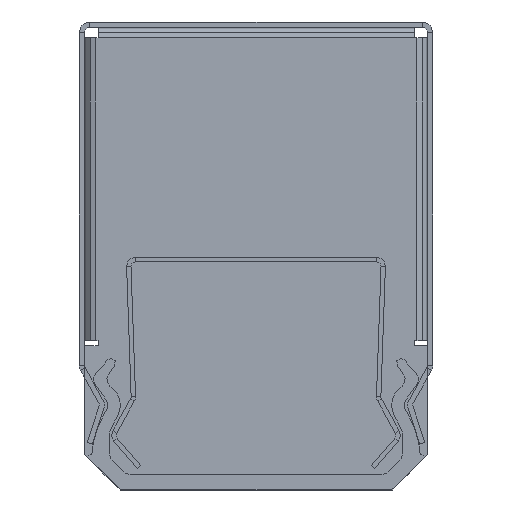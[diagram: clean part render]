
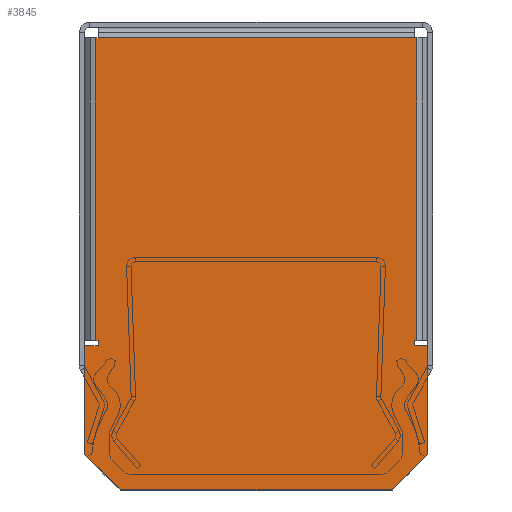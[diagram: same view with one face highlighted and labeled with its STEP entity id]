
A CAD part, left-side view. The second image highlights one B-rep face of the part: STEP entity #3845.
In plain terms, the highlighted planar face has unit normal (-1, 0, 0).
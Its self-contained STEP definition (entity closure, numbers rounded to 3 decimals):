
#141=PLANE('',#4192);
#353=FACE_OUTER_BOUND('',#585,.T.);
#585=EDGE_LOOP('',(#3325,#3326,#3327,#3328,#3329,#3330,#3331,#3332,#3333,
#3334,#3335,#3336,#3337,#3338,#3339,#3340));
#1073=LINE('',#6195,#1503);
#1074=LINE('',#6198,#1504);
#1077=LINE('',#6204,#1507);
#1080=LINE('',#6210,#1510);
#1084=LINE('',#6225,#1514);
#1089=LINE('',#6235,#1519);
#1091=LINE('',#6240,#1521);
#1095=LINE('',#6248,#1525);
#1098=LINE('',#6254,#1528);
#1102=LINE('',#6260,#1532);
#1104=LINE('',#6268,#1534);
#1105=LINE('',#6273,#1535);
#1106=LINE('',#6275,#1536);
#1107=LINE('',#6277,#1537);
#1108=LINE('',#6279,#1538);
#1109=LINE('',#6280,#1539);
#1503=VECTOR('',#5054,10.);
#1504=VECTOR('',#5057,10.);
#1507=VECTOR('',#5062,10.);
#1510=VECTOR('',#5067,10.);
#1514=VECTOR('',#5083,10.);
#1519=VECTOR('',#5094,10.);
#1521=VECTOR('',#5098,10.);
#1525=VECTOR('',#5104,10.);
#1528=VECTOR('',#5109,10.);
#1532=VECTOR('',#5115,10.);
#1534=VECTOR('',#5129,10.);
#1535=VECTOR('',#5136,10.);
#1536=VECTOR('',#5137,10.);
#1537=VECTOR('',#5138,10.);
#1538=VECTOR('',#5139,10.);
#1539=VECTOR('',#5140,10.);
#1873=VERTEX_POINT('',#6187);
#1876=VERTEX_POINT('',#6193);
#1877=VERTEX_POINT('',#6197);
#1879=VERTEX_POINT('',#6203);
#1881=VERTEX_POINT('',#6209);
#1885=VERTEX_POINT('',#6221);
#1886=VERTEX_POINT('',#6223);
#1887=VERTEX_POINT('',#6231);
#1890=VERTEX_POINT('',#6238);
#1892=VERTEX_POINT('',#6245);
#1893=VERTEX_POINT('',#6247);
#1895=VERTEX_POINT('',#6253);
#1897=VERTEX_POINT('',#6272);
#1898=VERTEX_POINT('',#6274);
#1899=VERTEX_POINT('',#6276);
#1900=VERTEX_POINT('',#6278);
#2349=EDGE_CURVE('',#1876,#1873,#1073,.T.);
#2350=EDGE_CURVE('',#1877,#1876,#1074,.T.);
#2353=EDGE_CURVE('',#1879,#1877,#1077,.T.);
#2356=EDGE_CURVE('',#1881,#1879,#1080,.T.);
#2364=EDGE_CURVE('',#1886,#1885,#1084,.T.);
#2369=EDGE_CURVE('',#1885,#1887,#1089,.T.);
#2371=EDGE_CURVE('',#1890,#1881,#1091,.T.);
#2375=EDGE_CURVE('',#1893,#1892,#1095,.T.);
#2378=EDGE_CURVE('',#1895,#1893,#1098,.T.);
#2382=EDGE_CURVE('',#1890,#1895,#1102,.T.);
#2388=EDGE_CURVE('',#1892,#1887,#1104,.T.);
#2389=EDGE_CURVE('',#1897,#1873,#1105,.T.);
#2390=EDGE_CURVE('',#1898,#1886,#1106,.T.);
#2391=EDGE_CURVE('',#1898,#1899,#1107,.T.);
#2392=EDGE_CURVE('',#1899,#1900,#1108,.T.);
#2393=EDGE_CURVE('',#1900,#1897,#1109,.T.);
#3325=ORIENTED_EDGE('',*,*,#2389,.T.);
#3326=ORIENTED_EDGE('',*,*,#2349,.F.);
#3327=ORIENTED_EDGE('',*,*,#2350,.F.);
#3328=ORIENTED_EDGE('',*,*,#2353,.F.);
#3329=ORIENTED_EDGE('',*,*,#2356,.F.);
#3330=ORIENTED_EDGE('',*,*,#2371,.F.);
#3331=ORIENTED_EDGE('',*,*,#2382,.T.);
#3332=ORIENTED_EDGE('',*,*,#2378,.T.);
#3333=ORIENTED_EDGE('',*,*,#2375,.T.);
#3334=ORIENTED_EDGE('',*,*,#2388,.T.);
#3335=ORIENTED_EDGE('',*,*,#2369,.F.);
#3336=ORIENTED_EDGE('',*,*,#2364,.F.);
#3337=ORIENTED_EDGE('',*,*,#2390,.F.);
#3338=ORIENTED_EDGE('',*,*,#2391,.T.);
#3339=ORIENTED_EDGE('',*,*,#2392,.T.);
#3340=ORIENTED_EDGE('',*,*,#2393,.T.);
#3845=ADVANCED_FACE('',(#353),#141,.T.);
#4192=AXIS2_PLACEMENT_3D('',#6271,#5134,#5135);
#5054=DIRECTION('',(0.,0.,1.));
#5057=DIRECTION('',(0.,0.707,0.707));
#5062=DIRECTION('',(0.,1.,0.));
#5067=DIRECTION('',(0.,0.707,-0.707));
#5083=DIRECTION('',(0.,-1.,0.));
#5094=DIRECTION('',(0.,-1.,0.));
#5098=DIRECTION('',(0.,0.,-1.));
#5104=DIRECTION('',(0.,-1.,0.));
#5109=DIRECTION('',(0.,0.,1.));
#5115=DIRECTION('',(0.,1.,0.));
#5129=DIRECTION('',(0.,0.,1.));
#5134=DIRECTION('center_axis',(-1.,0.,0.));
#5135=DIRECTION('ref_axis',(0.,1.,0.));
#5136=DIRECTION('',(0.,1.,0.));
#5137=DIRECTION('',(0.,-1.,0.));
#5138=DIRECTION('',(0.,0.,-1.));
#5139=DIRECTION('',(0.,-1.,0.));
#5140=DIRECTION('',(0.,0.,-1.));
#6187=CARTESIAN_POINT('',(-844.6,19.48,-36.3));
#6193=CARTESIAN_POINT('',(-844.6,19.48,-48.7));
#6195=CARTESIAN_POINT('',(-844.6,19.48,-35.7));
#6197=CARTESIAN_POINT('',(-844.6,15.48,-52.7));
#6198=CARTESIAN_POINT('',(-844.6,19.48,-48.7));
#6203=CARTESIAN_POINT('',(-844.6,-15.52,-52.7));
#6204=CARTESIAN_POINT('',(-844.6,15.48,-52.7));
#6209=CARTESIAN_POINT('',(-844.6,-19.52,-48.7));
#6210=CARTESIAN_POINT('',(-844.6,-15.52,-52.7));
#6221=CARTESIAN_POINT('',(-844.6,-18.02,-1.2));
#6223=CARTESIAN_POINT('',(-844.6,17.98,-1.2));
#6225=CARTESIAN_POINT('',(-844.6,-27.72,-1.2));
#6231=CARTESIAN_POINT('',(-844.6,-18.332,-1.2));
#6235=CARTESIAN_POINT('',(-844.6,-27.72,-1.2));
#6238=CARTESIAN_POINT('',(-844.6,-19.52,-36.3));
#6240=CARTESIAN_POINT('',(-844.6,-19.52,-48.7));
#6245=CARTESIAN_POINT('',(-844.6,-18.332,-35.7));
#6247=CARTESIAN_POINT('',(-844.6,-18.032,-35.7));
#6248=CARTESIAN_POINT('',(-844.6,-9.026,-35.7));
#6253=CARTESIAN_POINT('',(-844.6,-18.032,-36.3));
#6254=CARTESIAN_POINT('',(-844.6,-18.032,-28.715));
#6260=CARTESIAN_POINT('',(-844.6,-9.92,-36.3));
#6268=CARTESIAN_POINT('',(-844.6,-18.332,-28.415));
#6271=CARTESIAN_POINT('Origin',(-844.6,-0.02,-21.13));
#6272=CARTESIAN_POINT('',(-844.6,17.992,-36.3));
#6273=CARTESIAN_POINT('',(-844.6,8.986,-36.3));
#6274=CARTESIAN_POINT('',(-844.6,18.292,-1.2));
#6275=CARTESIAN_POINT('',(-844.6,-27.72,-1.2));
#6276=CARTESIAN_POINT('',(-844.6,18.292,-35.7));
#6277=CARTESIAN_POINT('',(-844.6,18.292,-11.165));
#6278=CARTESIAN_POINT('',(-844.6,17.992,-35.7));
#6279=CARTESIAN_POINT('',(-844.6,9.88,-35.7));
#6280=CARTESIAN_POINT('',(-844.6,17.992,-28.415));
